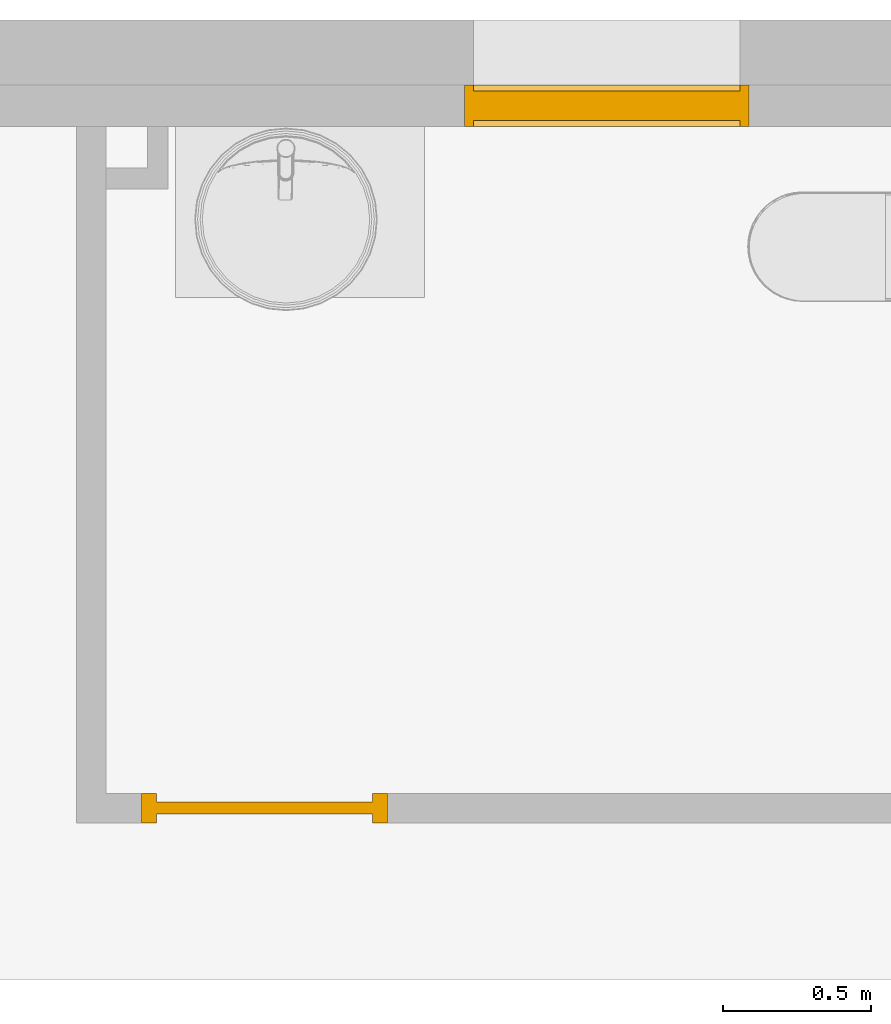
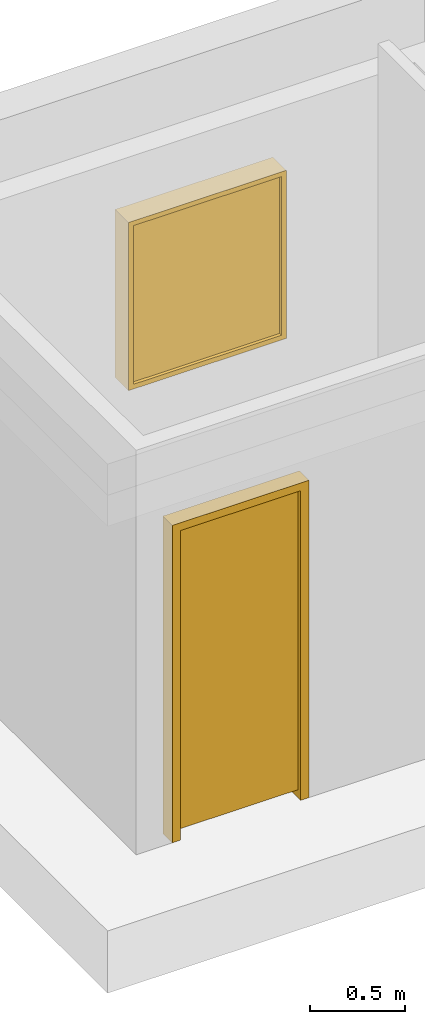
# Not in any storey, part 2 of 3: 1 door, 1 window.
"""IFC4 model written with IfcOpenShell, lengths in metres."""

from ifc_helpers import new_model, si_unit, direction, origin_with_axes, place, context, subcontext, project, faceted_brep, element, save


model = new_model("IFC4")

# Units and contexts
model_context = context("Model", 3, precision=1e-05, world=origin_with_axes(), true_north=direction((1.0, 0.0)))
body_context = subcontext(model_context, "Body", "Model", "MODEL_VIEW")
ifc_project = project(units=[si_unit("LENGTHUNIT", "METRE"), si_unit("AREAUNIT", "SQUARE_METRE"), si_unit("VOLUMEUNIT", "CUBIC_METRE"), si_unit("MASSUNIT", "GRAM", prefix="KILO"), si_unit("TIMEUNIT", "SECOND"), si_unit("PLANEANGLEUNIT", "RADIAN"), si_unit("SOLIDANGLEUNIT", "STERADIAN")], contexts=[model_context])

# Door
placement = place(None, origin_with_axes())
element("IfcDoor", 1, at=placement, Name="Int. Simple:PP (0.83m x 2.04m)", context=body_context, shape_type="Brep", body=[
    faceted_brep([(15.292682, 10.977147, 0.0), (15.292682, 10.877147, 0.0), (15.292682, 10.877147, 2.04), (15.292682, 10.977147, 2.04), (16.122682, 10.877147, 0.0), (16.122682, 10.977147, 0.0), (16.122682, 10.977147, 2.04), (16.122682, 10.877147, 2.04), (15.342682, 10.977147, 1.99), (15.342682, 10.977147, 0.05), (15.342682, 10.977147, 0.0), (16.072682, 10.977147, 0.0), (16.072682, 10.977147, 0.05), (16.072682, 10.977147, 1.99), (15.342682, 10.907147, 1.99), (15.342682, 10.907147, 0.05), (16.072682, 10.907147, 0.05), (16.072682, 10.907147, 1.99), (15.342682, 10.877147, 1.99), (15.342682, 10.877147, 0.05), (16.072682, 10.877147, 0.05), (16.072682, 10.877147, 1.99), (15.342682, 10.947147, 0.05), (15.342682, 10.947147, 1.99), (16.072682, 10.947147, 1.99), (16.072682, 10.947147, 0.05), (15.342682, 10.877147, 0.0), (16.072682, 10.877147, 0.0)], [[[0, 1, 2, 3]], [[4, 5, 6, 7]], [[7, 6, 3, 2]], [[8, 9, 10, 0, 3, 6, 5, 11, 12, 13]], [[14, 15, 16, 17]], [[18, 19, 15, 14]], [[20, 21, 17, 16]], [[21, 18, 14, 17]], [[22, 23, 24, 25]], [[9, 8, 23, 22]], [[8, 13, 24, 23]], [[13, 12, 25, 24]], [[1, 26, 19, 18, 21, 20, 27, 4, 7, 2]], [[10, 26, 1, 0]], [[26, 10, 9, 22, 15, 19]], [[27, 11, 5, 4]], [[16, 25, 12, 11, 27, 20]], [[25, 16, 15, 22]]]),
])

# Window
element("IfcWindow", 2, at=placement, context=body_context, shape_type="Brep", body=[
    faceted_brep([(16.382682, 13.367147, 1.1), (16.382682, 13.367147, 2.18), (17.342682, 13.367147, 2.18), (17.342682, 13.367147, 1.1), (17.312682, 13.367147, 1.13), (17.312682, 13.367147, 2.15), (16.412682, 13.367147, 2.15), (16.412682, 13.367147, 1.13), (16.382682, 13.227147, 2.18), (16.382682, 13.227147, 1.1), (17.342682, 13.227147, 1.1), (17.342682, 13.227147, 2.18), (17.312682, 13.227147, 2.15), (17.312682, 13.227147, 1.13), (16.412682, 13.227147, 1.13), (16.412682, 13.227147, 2.15), (17.312682, 13.247147, 2.15), (17.312682, 13.247147, 1.13), (16.412682, 13.247147, 2.15), (16.412682, 13.247147, 1.13), (17.312682, 13.347147, 1.13), (17.312682, 13.347147, 2.15), (16.412682, 13.347147, 1.13), (16.412682, 13.347147, 2.15)], [[[0, 1, 2, 3], [4, 5, 6, 7]], [[8, 9, 10, 11], [12, 13, 14, 15]], [[1, 0, 9, 8]], [[0, 3, 10, 9]], [[3, 2, 11, 10]], [[2, 1, 8, 11]], [[13, 12, 16, 17]], [[12, 15, 18, 16]], [[15, 14, 19, 18]], [[14, 13, 17, 19]], [[5, 4, 20, 21]], [[4, 7, 22, 20]], [[7, 6, 23, 22]], [[6, 5, 21, 23]]]),
    faceted_brep([(17.312682, 13.247147, 1.13), (17.312682, 13.247147, 2.15), (16.412682, 13.247147, 2.15), (16.412682, 13.247147, 1.13), (17.312682, 13.347147, 2.15), (17.312682, 13.347147, 1.13), (16.412682, 13.347147, 1.13), (16.412682, 13.347147, 2.15)], [[[0, 1, 2, 3]], [[4, 5, 6, 7]]]),
])

save(model, "model.ifc")
